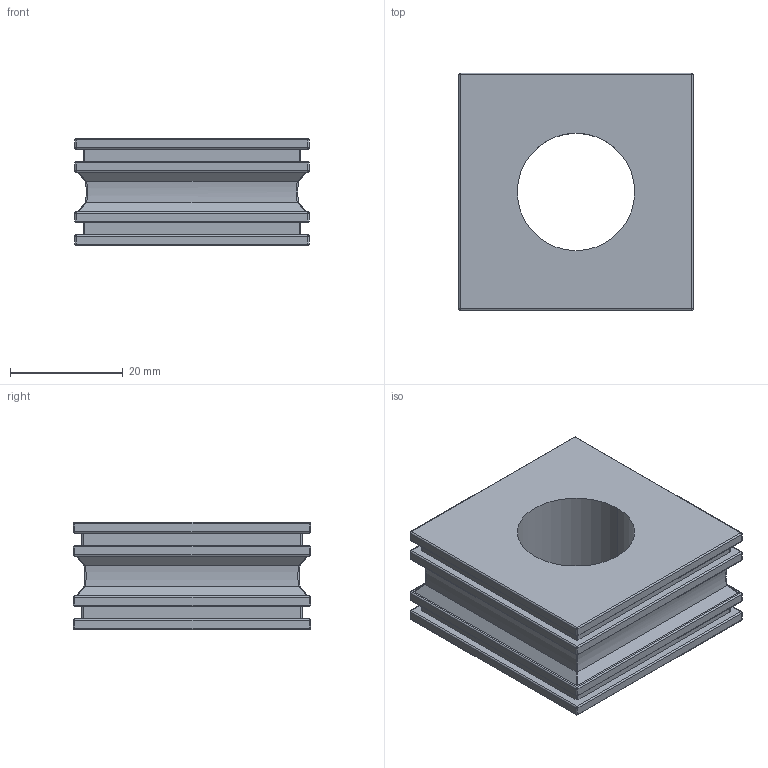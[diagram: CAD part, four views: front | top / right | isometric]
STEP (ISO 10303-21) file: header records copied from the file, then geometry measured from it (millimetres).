
FILE_DESCRIPTION (( 'STEP AP203' ), '1' );
FILE_NAME ('041221 KT21.STEP', '2023-03-07T06:38:32', ( '' ), ( '' ), 'SwSTEP 2.0', 'SolidWorks 2016', '' );
FILE_SCHEMA (( 'CONFIG_CONTROL_DESIGN' ));
Length unit declared in the file: millimetre
Products named in the file (1): 041221 KT21
Bounding box: 41.5 x 42 x 19 mm (x, y, z)
Volume: 23782.3 mm3; surface area: 8232.4 mm2
Topology: 1 solids, 1 shells, 195 faces, 483 edges, 268 vertices
Faces by surface type: plane 81, cylinder 71, bspline 43
Entity records: 6416 total; most frequent: CARTESIAN_POINT 2158, ORIENTED_EDGE 902, DIRECTION 813, EDGE_CURVE 451, AXIS2_PLACEMENT_3D 271, LINE 271, VECTOR 271, VERTEX_POINT 268
